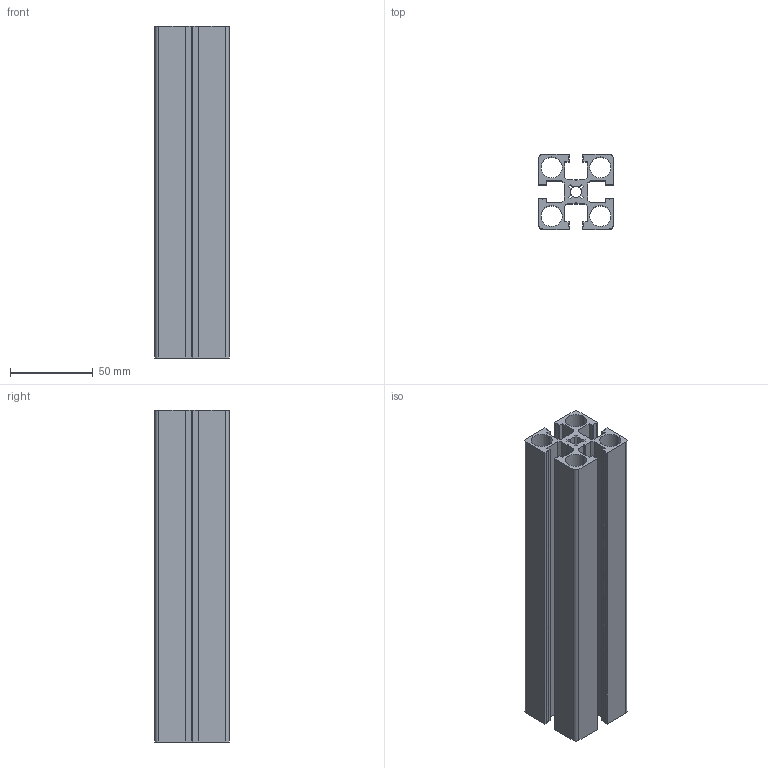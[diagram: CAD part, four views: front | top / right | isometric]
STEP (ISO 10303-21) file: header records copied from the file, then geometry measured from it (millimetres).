
FILE_DESCRIPTION (( 'STEP AP203' ), '1' );
FILE_NAME ('006511 REF 4545F.STEP', '2015-12-01T11:53:54', ( '' ), ( '' ), 'SwSTEP 2.0', 'SolidWorks 2015', '' );
FILE_SCHEMA (( 'CONFIG_CONTROL_DESIGN' ));
Length unit declared in the file: millimetre
Products named in the file (1): 006511 REF 4545F
Bounding box: 45 x 45 x 200 mm (x, y, z)
Volume: 146414.1 mm3; surface area: 108695.5 mm2
Topology: 1 solids, 1 shells, 108 faces, 318 edges, 212 vertices
Faces by surface type: plane 70, cylinder 30, bspline 8
Entity records: 3735 total; most frequent: CARTESIAN_POINT 775, ORIENTED_EDGE 636, DIRECTION 564, EDGE_CURVE 318, VECTOR 242, LINE 242, VERTEX_POINT 212, AXIS2_PLACEMENT_3D 161
